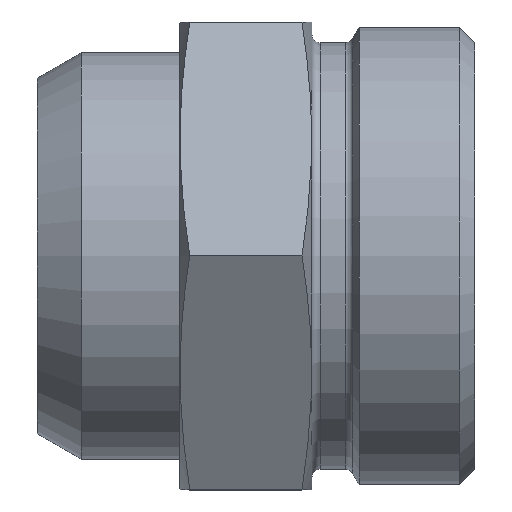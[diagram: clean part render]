
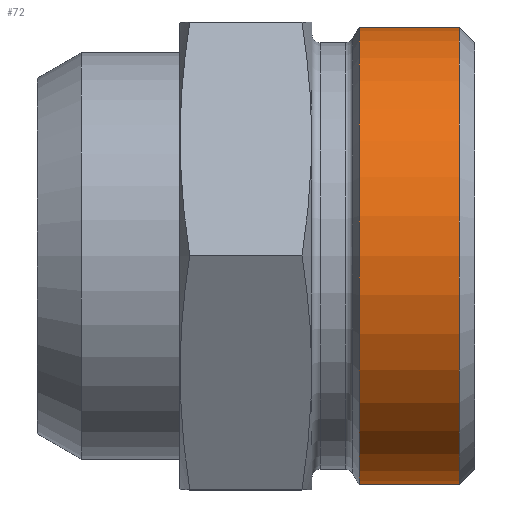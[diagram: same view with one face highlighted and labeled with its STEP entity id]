
A CAD part, top view. The second image highlights one B-rep face of the part: STEP entity #72.
In plain terms, the highlighted cylindrical face has radius 22.5 mm (diameter 45 mm), a full revolution.
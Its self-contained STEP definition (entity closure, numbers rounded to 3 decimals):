
#72 = ADVANCED_FACE( '', ( #157, #158 ), #159, .T. );
#157 = FACE_OUTER_BOUND( '', #254, .T. );
#158 = FACE_OUTER_BOUND( '', #255, .T. );
#159 = CYLINDRICAL_SURFACE( '', #256, 22.5 );
#254 = EDGE_LOOP( '', ( #381 ) );
#255 = EDGE_LOOP( '', ( #382 ) );
#256 = AXIS2_PLACEMENT_3D( '', #383, #384, #385 );
#381 = ORIENTED_EDGE( '', *, *, #504, .T. );
#382 = ORIENTED_EDGE( '', *, *, #494, .F. );
#383 = CARTESIAN_POINT( '', ( -60., 0., 0. ) );
#384 = DIRECTION( '', ( 1., 0., 0. ) );
#385 = DIRECTION( '', ( 0., 0., 1. ) );
#494 = EDGE_CURVE( '', #571, #571, #572, .T. );
#504 = EDGE_CURVE( '', #587, #587, #588, .T. );
#571 = VERTEX_POINT( '', #731 );
#572 = CIRCLE( '', #732, 22.5 );
#587 = VERTEX_POINT( '', #747 );
#588 = CIRCLE( '', #748, 22.5 );
#731 = CARTESIAN_POINT( '', ( -11.365, 0., 22.5 ) );
#732 = AXIS2_PLACEMENT_3D( '', #831, #832, #833 );
#747 = CARTESIAN_POINT( '', ( -1.5, 0., 22.5 ) );
#748 = AXIS2_PLACEMENT_3D( '', #849, #850, #851 );
#831 = CARTESIAN_POINT( '', ( -11.365, 0., 0. ) );
#832 = DIRECTION( '', ( -1., 0., 0. ) );
#833 = DIRECTION( '', ( 0., 0., 1. ) );
#849 = CARTESIAN_POINT( '', ( -1.5, 0., 0. ) );
#850 = DIRECTION( '', ( -1., 0., 0. ) );
#851 = DIRECTION( '', ( 0., 0., 1. ) );
